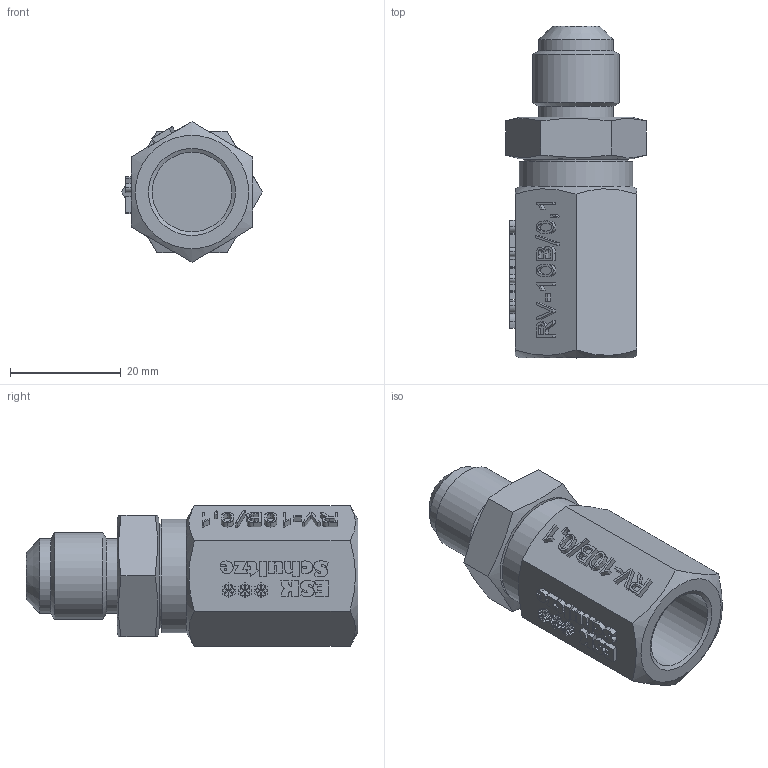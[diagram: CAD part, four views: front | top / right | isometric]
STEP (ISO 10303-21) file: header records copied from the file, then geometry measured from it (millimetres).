
FILE_DESCRIPTION(/* description */ (''),/* implementation_level */ '2;1');
FILE_NAME(/* name */ 'P:\RV\RV-10B_0,1\RV-10B_0,1.stp',/* time_stamp */ '2017-10-05T09:05:31+02:00',/* author */ ('neufeld'),/* organization */ (''),/* preprocessor_version */ 'ST-DEVELOPER v16.1',/* originating_system */ 'Autodesk Inventor 2016',/* authorisation */ '');
FILE_SCHEMA (('AUTOMOTIVE_DESIGN { 1 0 10303 214 3 1 1 }'));
Length unit declared in the file: millimetre
Products named in the file (2): RV-10B_0,1; RV-10B_0,1_1
Assembly tree (1 placements, depth 2):
  RV-10B_0,1_1
    RV-10B_0,1
Bounding box: 25.4 x 60 x 25.4 mm (x, y, z)
Volume: 18485.6 mm3; surface area: 5913.3 mm2
Topology: 1 solids, 1 shells, 481 faces, 1323 edges, 879 vertices
Faces by surface type: plane 362, bspline 102, cone 9, cylinder 8
Full cylindrical faces by diameter (mm): 7 x1, 13.5 x2, 14.4 x1, 15.745 x1, 18.8 x1, 19.05 x1, 20.5 x1
Entity records: 15916 total; most frequent: CARTESIAN_POINT 4477, ORIENTED_EDGE 2604, DIRECTION 1857, EDGE_CURVE 1302, LINE 1053, VECTOR 1053, VERTEX_POINT 875, EDGE_LOOP 533
